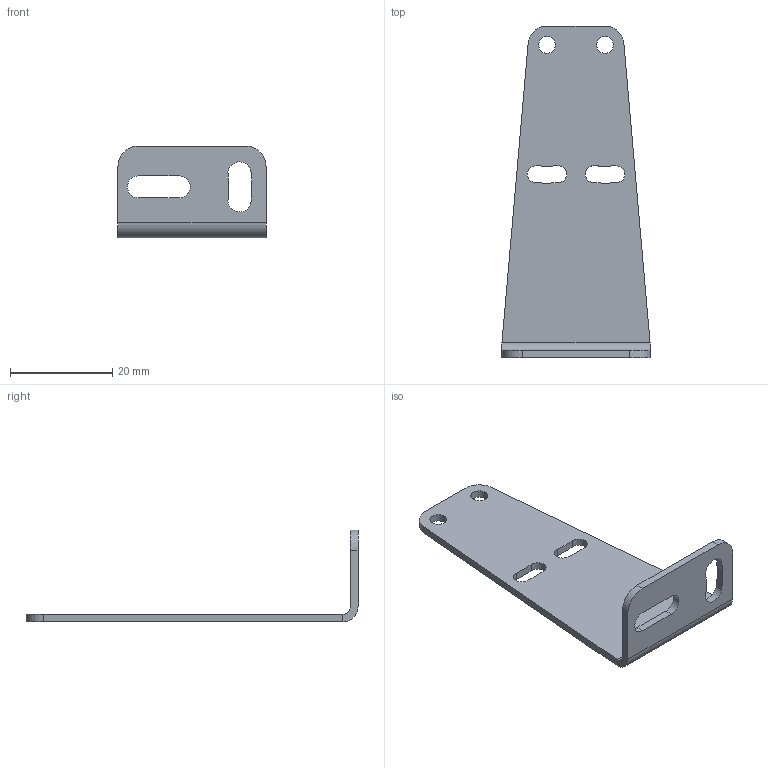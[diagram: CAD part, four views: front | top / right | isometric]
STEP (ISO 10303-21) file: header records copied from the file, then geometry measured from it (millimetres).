
FILE_DESCRIPTION( ( '' ), '1' );
FILE_NAME( '//expscmdclustefs.cadenas.external/client_exchange/iodir/jobs/output/wkb59775546_no0/STEP/E21271_2_03.stp', '2013-06-25T12:35:11', ( '' ), ( '' ), ' ', ' ', ' ' );
FILE_SCHEMA( ( 'CONFIG_CONTROL_DESIGN' ) );
Length unit declared in the file: millimetre
Products named in the file (1): 1
Bounding box: 29 x 65 x 18 mm (x, y, z)
Volume: 2752.5 mm3; surface area: 4144.5 mm2
Topology: 1 solids, 1 shells, 39 faces, 107 edges, 70 vertices
Faces by surface type: cylinder 27, plane 12
Entity records: 1331 total; most frequent: DIRECTION 241, CARTESIAN_POINT 217, ORIENTED_EDGE 214, EDGE_CURVE 107, AXIS2_PLACEMENT_3D 94, VERTEX_POINT 70, CIRCLE 54, LINE 53
